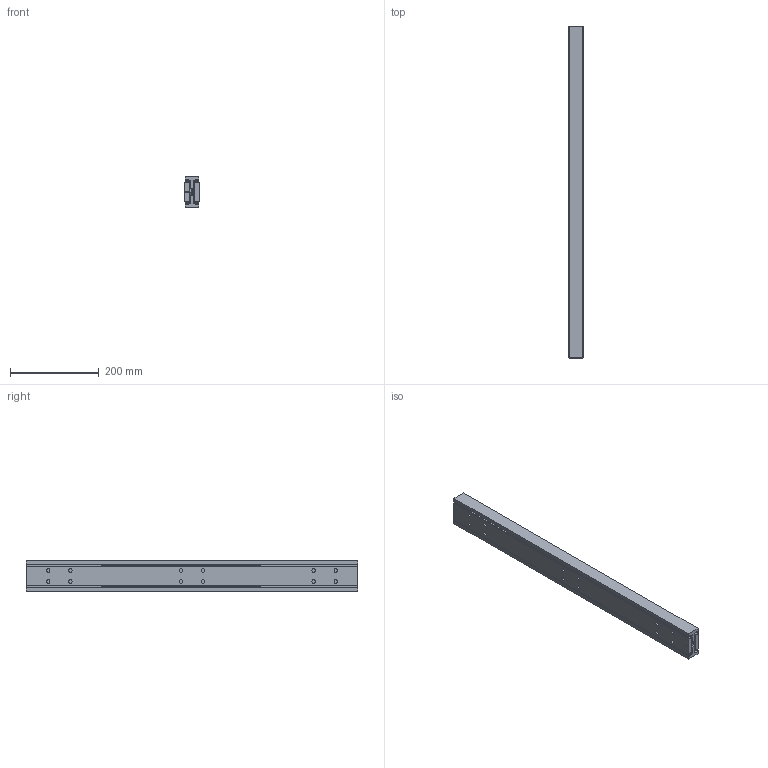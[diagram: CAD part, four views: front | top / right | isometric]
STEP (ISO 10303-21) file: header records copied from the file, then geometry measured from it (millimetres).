
FILE_DESCRIPTION(/* description */ (''),/* implementation_level */ '2;1');
FILE_NAME(/* name */ 'D:\Zeichnungen Schienen Komplett\MX-DTP70\MX-DTP70.075\MX-DTP70.075_eingefahren.step',/* time_stamp */ '2022-03-03T13:13:09+01:00',/* author */ ('zmile'),/* organization */ (''),/* preprocessor_version */ 'ST-DEVELOPER v16.13',/* originating_system */ 'AutoCAD Mechanical',/* authorisation */ '');
FILE_SCHEMA (('AUTOMOTIVE_DESIGN { 1 0 10303 214 3 1 1 }'));
Length unit declared in the file: millimetre
Products named in the file (1): Product
Bounding box: 32 x 750 x 70 mm (x, y, z)
Volume: 1277346.4 mm3; surface area: 473761.8 mm2
Topology: 53 solids, 55 shells, 182 faces, 592 edges, 424 vertices
Faces by surface type: plane 82, sphere 48, cylinder 38, bspline 8, torus 6
Full cylindrical faces by diameter (mm): 8 x24, 13 x2
Entity records: 12595 total; most frequent: CARTESIAN_POINT 7523, DIRECTION 1026, ORIENTED_EDGE 796, EDGE_CURVE 462, VERTEX_POINT 422, AXIS2_PLACEMENT_3D 407, EDGE_LOOP 362, CIRCLE 228
